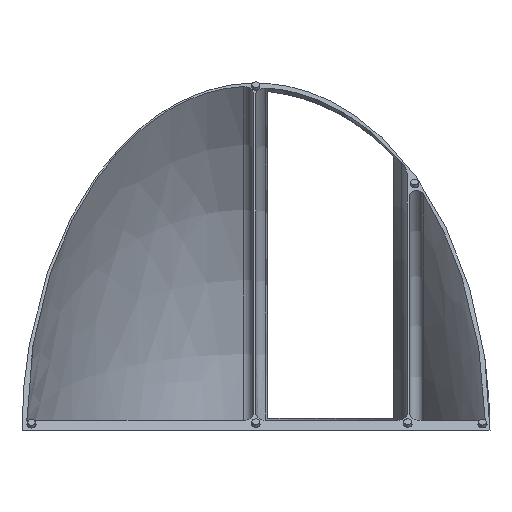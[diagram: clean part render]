
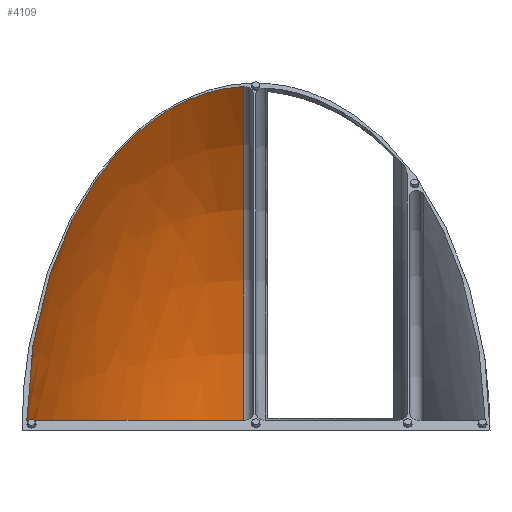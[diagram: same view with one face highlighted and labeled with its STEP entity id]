
A CAD part, left-side view. The second image highlights one B-rep face of the part: STEP entity #4109.
In plain terms, the highlighted face is a revolution surface.
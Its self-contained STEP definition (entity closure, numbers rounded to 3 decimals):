
#33 = PLANE('',#34);
#34 = AXIS2_PLACEMENT_3D('',#35,#36,#37);
#35 = CARTESIAN_POINT('',(38.769,-0.043,0.));
#36 = DIRECTION('',(0.,0.,1.));
#37 = DIRECTION('',(1.,0.,0.));
#75 = PLANE('',#76);
#76 = AXIS2_PLACEMENT_3D('',#77,#78,#79);
#77 = CARTESIAN_POINT('',(27.414,-0.043,
    27.414));
#78 = DIRECTION('',(-0.707,0.,0.707));
#79 = DIRECTION('',(0.707,0.,0.707));
#738 = EDGE_CURVE('',#739,#741,#743,.T.);
#739 = VERTEX_POINT('',#740);
#740 = CARTESIAN_POINT('',(103.994,2.659,0.));
#741 = VERTEX_POINT('',#742);
#742 = CARTESIAN_POINT('',(3.,48.982,0.));
#743 = SURFACE_CURVE('',#744,(#749,#756),.PCURVE_S1.);
#744 = ELLIPSE('',#745,104.073,49.019);
#745 = AXIS2_PLACEMENT_3D('',#746,#747,#748);
#746 = CARTESIAN_POINT('',(0.,-0.043,0.));
#747 = DIRECTION('',(0.,-0.,1.));
#748 = DIRECTION('',(1.,0.01,0.));
#749 = PCURVE('',#33,#750);
#750 = DEFINITIONAL_REPRESENTATION('',(#751),#755);
#751 = ELLIPSE('',#752,104.073,49.019);
#752 = AXIS2_PLACEMENT_2D('',#753,#754);
#753 = CARTESIAN_POINT('',(-38.769,0.));
#754 = DIRECTION('',(1.,0.01));
#755 = ( GEOMETRIC_REPRESENTATION_CONTEXT(2) 
PARAMETRIC_REPRESENTATION_CONTEXT() REPRESENTATION_CONTEXT('2D SPACE',''
  ) );
#756 = PCURVE('',#757,#766);
#757 = SURFACE_OF_REVOLUTION('',#758,#763);
#758 = ELLIPSE('',#759,104.073,49.019);
#759 = AXIS2_PLACEMENT_3D('',#760,#761,#762);
#760 = CARTESIAN_POINT('',(0.,-0.043,0.));
#761 = DIRECTION('',(0.,-0.,1.));
#762 = DIRECTION('',(1.,0.01,0.));
#763 = AXIS1_PLACEMENT('',#764,#765);
#764 = CARTESIAN_POINT('',(0.,0.,0.));
#765 = DIRECTION('',(0.,-1.,0.));
#766 = DEFINITIONAL_REPRESENTATION('',(#767),#771);
#767 = LINE('',#768,#769);
#768 = CARTESIAN_POINT('',(0.,0.));
#769 = VECTOR('',#770,1.);
#770 = DIRECTION('',(0.,1.));
#771 = ( GEOMETRIC_REPRESENTATION_CONTEXT(2) 
PARAMETRIC_REPRESENTATION_CONTEXT() REPRESENTATION_CONTEXT('2D SPACE',''
  ) );
#790 = TOROIDAL_SURFACE('',#791,102.,2.);
#791 = AXIS2_PLACEMENT_3D('',#792,#793,#794);
#792 = CARTESIAN_POINT('',(0.,2.498,0.));
#793 = DIRECTION('',(0.,-1.,0.));
#794 = DIRECTION('',(1.,0.,0.));
#873 = CYLINDRICAL_SURFACE('',#874,3.);
#874 = AXIS2_PLACEMENT_3D('',#875,#876,#877);
#875 = CARTESIAN_POINT('',(0.,48.982,0.));
#876 = DIRECTION('',(0.,-1.,0.));
#877 = DIRECTION('',(1.,0.,0.));
#2327 = EDGE_CURVE('',#2328,#2330,#2332,.T.);
#2328 = VERTEX_POINT('',#2329);
#2329 = CARTESIAN_POINT('',(73.535,2.659,
    73.535));
#2330 = VERTEX_POINT('',#2331);
#2331 = CARTESIAN_POINT('',(2.121,48.982,2.121)
  );
#2332 = SURFACE_CURVE('',#2333,(#2338,#2345),.PCURVE_S1.);
#2333 = ELLIPSE('',#2334,104.073,49.019);
#2334 = AXIS2_PLACEMENT_3D('',#2335,#2336,#2337);
#2335 = CARTESIAN_POINT('',(0.,-0.043,0.));
#2336 = DIRECTION('',(-0.707,0.,0.707)
  );
#2337 = DIRECTION('',(0.707,0.01,0.707)
  );
#2338 = PCURVE('',#75,#2339);
#2339 = DEFINITIONAL_REPRESENTATION('',(#2340),#2344);
#2340 = ELLIPSE('',#2341,104.073,49.019);
#2341 = AXIS2_PLACEMENT_2D('',#2342,#2343);
#2342 = CARTESIAN_POINT('',(-38.769,0.));
#2343 = DIRECTION('',(1.,0.01));
#2344 = ( GEOMETRIC_REPRESENTATION_CONTEXT(2) 
PARAMETRIC_REPRESENTATION_CONTEXT() REPRESENTATION_CONTEXT('2D SPACE',''
  ) );
#2345 = PCURVE('',#757,#2346);
#2346 = DEFINITIONAL_REPRESENTATION('',(#2347),#2351);
#2347 = LINE('',#2348,#2349);
#2348 = CARTESIAN_POINT('',(0.785,0.));
#2349 = VECTOR('',#2350,1.);
#2350 = DIRECTION('',(0.,1.));
#2351 = ( GEOMETRIC_REPRESENTATION_CONTEXT(2) 
PARAMETRIC_REPRESENTATION_CONTEXT() REPRESENTATION_CONTEXT('2D SPACE',''
  ) );
#4109 = ADVANCED_FACE('',(#4110),#757,.T.);
#4110 = FACE_BOUND('',#4111,.T.);
#4111 = EDGE_LOOP('',(#4112,#4134,#4135,#4157));
#4112 = ORIENTED_EDGE('',*,*,#4113,.T.);
#4113 = EDGE_CURVE('',#739,#2328,#4114,.T.);
#4114 = SURFACE_CURVE('',#4115,(#4120,#4127),.PCURVE_S1.);
#4115 = CIRCLE('',#4116,103.994);
#4116 = AXIS2_PLACEMENT_3D('',#4117,#4118,#4119);
#4117 = CARTESIAN_POINT('',(0.,2.659,0.));
#4118 = DIRECTION('',(0.,-1.,0.));
#4119 = DIRECTION('',(1.,0.,0.));
#4120 = PCURVE('',#757,#4121);
#4121 = DEFINITIONAL_REPRESENTATION('',(#4122),#4126);
#4122 = LINE('',#4123,#4124);
#4123 = CARTESIAN_POINT('',(0.,0.033));
#4124 = VECTOR('',#4125,1.);
#4125 = DIRECTION('',(1.,0.));
#4126 = ( GEOMETRIC_REPRESENTATION_CONTEXT(2) 
PARAMETRIC_REPRESENTATION_CONTEXT() REPRESENTATION_CONTEXT('2D SPACE',''
  ) );
#4127 = PCURVE('',#790,#4128);
#4128 = DEFINITIONAL_REPRESENTATION('',(#4129),#4133);
#4129 = LINE('',#4130,#4131);
#4130 = CARTESIAN_POINT('',(0.,6.203));
#4131 = VECTOR('',#4132,1.);
#4132 = DIRECTION('',(1.,0.));
#4133 = ( GEOMETRIC_REPRESENTATION_CONTEXT(2) 
PARAMETRIC_REPRESENTATION_CONTEXT() REPRESENTATION_CONTEXT('2D SPACE',''
  ) );
#4134 = ORIENTED_EDGE('',*,*,#2327,.T.);
#4135 = ORIENTED_EDGE('',*,*,#4136,.F.);
#4136 = EDGE_CURVE('',#741,#2330,#4137,.T.);
#4137 = SURFACE_CURVE('',#4138,(#4143,#4150),.PCURVE_S1.);
#4138 = CIRCLE('',#4139,3.);
#4139 = AXIS2_PLACEMENT_3D('',#4140,#4141,#4142);
#4140 = CARTESIAN_POINT('',(0.,48.982,0.));
#4141 = DIRECTION('',(0.,-1.,0.));
#4142 = DIRECTION('',(1.,0.,0.));
#4143 = PCURVE('',#757,#4144);
#4144 = DEFINITIONAL_REPRESENTATION('',(#4145),#4149);
#4145 = LINE('',#4146,#4147);
#4146 = CARTESIAN_POINT('',(0.,1.537));
#4147 = VECTOR('',#4148,1.);
#4148 = DIRECTION('',(1.,0.));
#4149 = ( GEOMETRIC_REPRESENTATION_CONTEXT(2) 
PARAMETRIC_REPRESENTATION_CONTEXT() REPRESENTATION_CONTEXT('2D SPACE',''
  ) );
#4150 = PCURVE('',#873,#4151);
#4151 = DEFINITIONAL_REPRESENTATION('',(#4152),#4156);
#4152 = LINE('',#4153,#4154);
#4153 = CARTESIAN_POINT('',(0.,0.));
#4154 = VECTOR('',#4155,1.);
#4155 = DIRECTION('',(1.,0.));
#4156 = ( GEOMETRIC_REPRESENTATION_CONTEXT(2) 
PARAMETRIC_REPRESENTATION_CONTEXT() REPRESENTATION_CONTEXT('2D SPACE',''
  ) );
#4157 = ORIENTED_EDGE('',*,*,#738,.F.);
